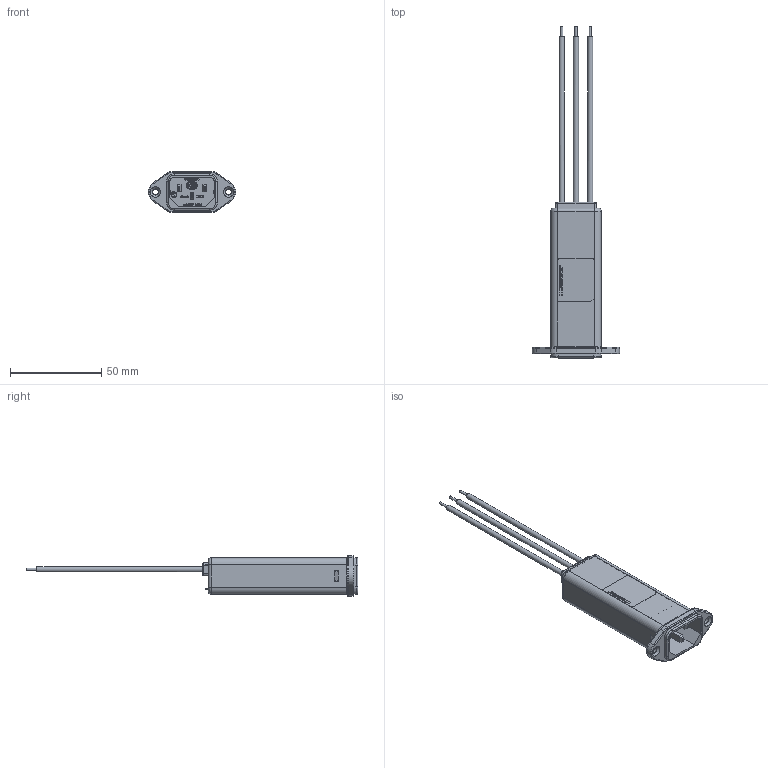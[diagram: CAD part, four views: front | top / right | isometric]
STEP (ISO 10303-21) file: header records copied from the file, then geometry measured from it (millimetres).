
FILE_DESCRIPTION(/* description */ ('naming raw material'),/* implementation_level */ '2;1');
FILE_NAME(/* name */ 'C:\SapWorkDir\Inventor\P01\ConvertTempPath\193012_IPT_000.ipt.stp',/* time_stamp */ '2018-07-03T09:26:14+07:00',/* author */ ('Eakchai.Yodchai'),/* organization */ ('Schaffner Thailand Ltd.'),/* preprocessor_version */ 'ST-DEVELOPER v16.5',/* originating_system */ 'Autodesk Inventor 2017',/* authorisation */ '');
FILE_SCHEMA (('AUTOMOTIVE_DESIGN { 1 0 10303 214 3 1 1 }'));
Products named in the file (1): 193012_IPT_000
Bounding box: 47.95 x 181.7 x 22.4 mm (x, y, z)
Volume: 14977.9 mm3; surface area: 33823.2 mm2
Topology: 1 solids, 7 shells, 1808 faces, 5023 edges, 3288 vertices
Faces by surface type: plane 1270, bspline 322, cylinder 169, torus 41, cone 6
Full cylindrical faces by diameter (mm): 1.28 x15, 2 x4, 2.8 x3, 2.835 x1, 3.15 x1, 3.2 x3, 3.3 x2, 4 x2
Entity records: 61104 total; most frequent: CARTESIAN_POINT 14982, ORIENTED_EDGE 9890, DIRECTION 7771, EDGE_CURVE 4943, LINE 3823, VECTOR 3823, VERTEX_POINT 3266, EDGE_LOOP 1999
